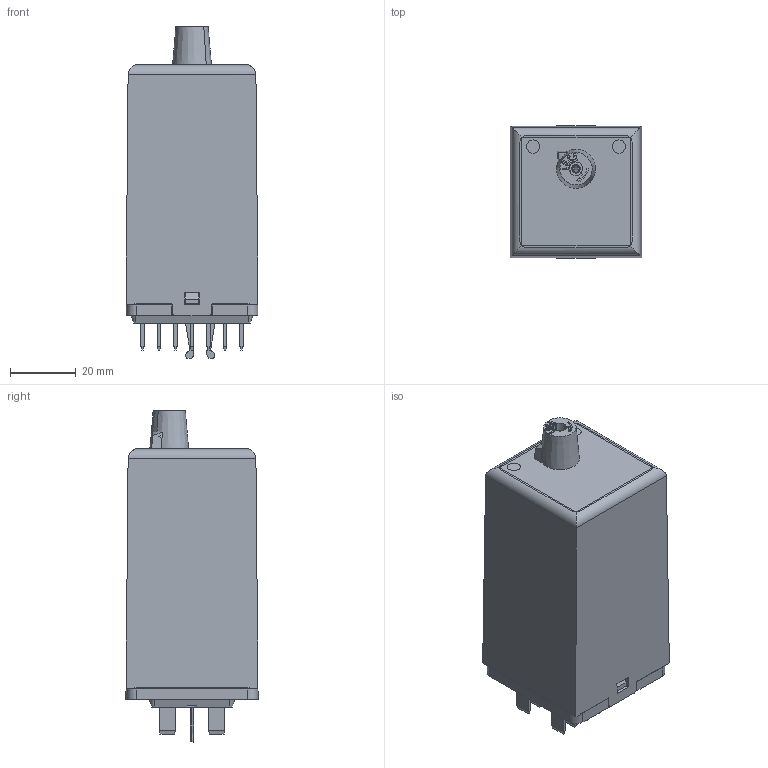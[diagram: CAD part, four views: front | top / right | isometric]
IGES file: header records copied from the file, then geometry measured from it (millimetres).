
Global section: file name: No Iges File Name specified; native system: Autodesk Inventor 2011; preprocessor: AutoDesk Inventor Iges Exporter R2011; author: oey; date: 20110308.144842; units: millimetre
Bounding box: 40 x 40.06 x 100.65 mm (x, y, z)
Volume: 30009.4 mm3; surface area: 39286.3 mm2
Topology: 21 solids, 21 shells, 1531 faces, 4202 edges, 2739 vertices
Faces by surface type: plane 800, bspline 387, revolution 162, cylinder 145, sphere 28, cone 7, torus 2
